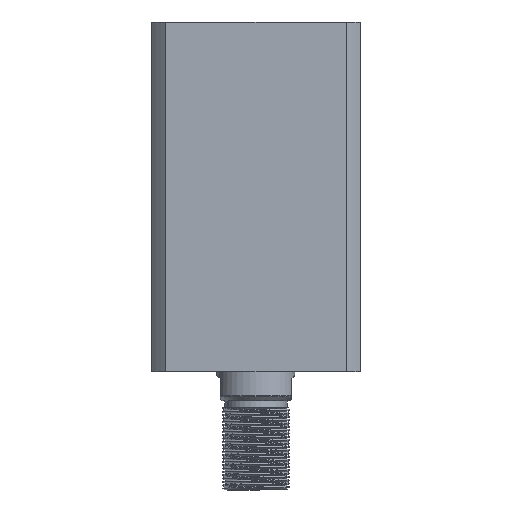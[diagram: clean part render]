
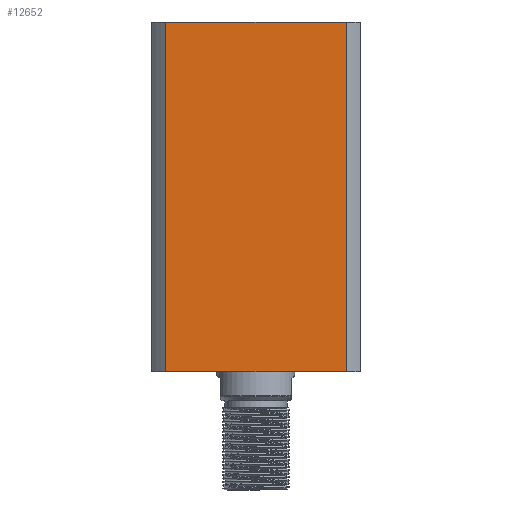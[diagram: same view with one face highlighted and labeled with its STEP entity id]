
A CAD part, front view. The second image highlights one B-rep face of the part: STEP entity #12652.
In plain terms, the highlighted planar face has unit normal (0, -1, 0) as drawn and (0, 1, 0) by its records, which use the part's own axes.
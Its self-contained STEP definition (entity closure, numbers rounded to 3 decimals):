
#136 = VERTEX_POINT ( 'NONE', #3096 ) ;
#251 = ORIENTED_EDGE ( 'NONE', *, *, #11616, .F. ) ;
#257 = CARTESIAN_POINT ( 'NONE',  ( -40.435, 47., 157. ) ) ;
#419 = PLANE ( 'NONE',  #14443 ) ;
#2722 = EDGE_LOOP ( 'NONE', ( #4739, #13872, #10164, #251 ) ) ;
#3096 = CARTESIAN_POINT ( 'NONE',  ( -40.435, 47., 0. ) ) ;
#4739 = ORIENTED_EDGE ( 'NONE', *, *, #4889, .F. ) ;
#4889 = EDGE_CURVE ( 'NONE', #16712, #17921, #20011, .T. ) ;
#5974 = DIRECTION ( 'NONE',  ( 0., 0., 1. ) ) ;
#6764 = CARTESIAN_POINT ( 'NONE',  ( -47., 47., 157. ) ) ;
#6850 = VECTOR ( 'NONE', #14824, 1000. ) ;
#8515 = FACE_OUTER_BOUND ( 'NONE', #2722, .T. ) ;
#9462 = DIRECTION ( 'NONE',  ( 0., 0., -1. ) ) ;
#10164 = ORIENTED_EDGE ( 'NONE', *, *, #12883, .F. ) ;
#11518 = VECTOR ( 'NONE', #5974, 1000. ) ;
#11616 = EDGE_CURVE ( 'NONE', #17921, #12593, #14381, .T. ) ;
#12593 = VERTEX_POINT ( 'NONE', #257 ) ;
#12652 = ADVANCED_FACE ( 'NONE', ( #8515 ), #419, .F. ) ;
#12670 = VECTOR ( 'NONE', #14715, 1000. ) ;
#12748 = CARTESIAN_POINT ( 'NONE',  ( 40.435, 47., 0. ) ) ;
#12883 = EDGE_CURVE ( 'NONE', #12593, #136, #19934, .T. ) ;
#12995 = CARTESIAN_POINT ( 'NONE',  ( -47., 47., 0. ) ) ;
#13596 = DIRECTION ( 'NONE',  ( -1., 0., 0. ) ) ;
#13872 = ORIENTED_EDGE ( 'NONE', *, *, #19400, .T. ) ;
#14381 = LINE ( 'NONE', #6764, #18364 ) ;
#14443 = AXIS2_PLACEMENT_3D ( 'NONE', #19398, #19633, #9462 ) ;
#14565 = CARTESIAN_POINT ( 'NONE',  ( 40.435, 47., -143. ) ) ;
#14715 = DIRECTION ( 'NONE',  ( -1., 0., 0. ) ) ;
#14824 = DIRECTION ( 'NONE',  ( 0., 0., -1. ) ) ;
#16520 = CARTESIAN_POINT ( 'NONE',  ( -40.435, 47., -143. ) ) ;
#16712 = VERTEX_POINT ( 'NONE', #12748 ) ;
#17921 = VERTEX_POINT ( 'NONE', #22275 ) ;
#18364 = VECTOR ( 'NONE', #13596, 1000. ) ;
#19398 = CARTESIAN_POINT ( 'NONE',  ( -47., 47., 157. ) ) ;
#19400 = EDGE_CURVE ( 'NONE', #16712, #136, #21699, .T. ) ;
#19633 = DIRECTION ( 'NONE',  ( 0., -1., 0. ) ) ;
#19934 = LINE ( 'NONE', #16520, #6850 ) ;
#20011 = LINE ( 'NONE', #14565, #11518 ) ;
#21699 = LINE ( 'NONE', #12995, #12670 ) ;
#22275 = CARTESIAN_POINT ( 'NONE',  ( 40.435, 47., 157. ) ) ;
